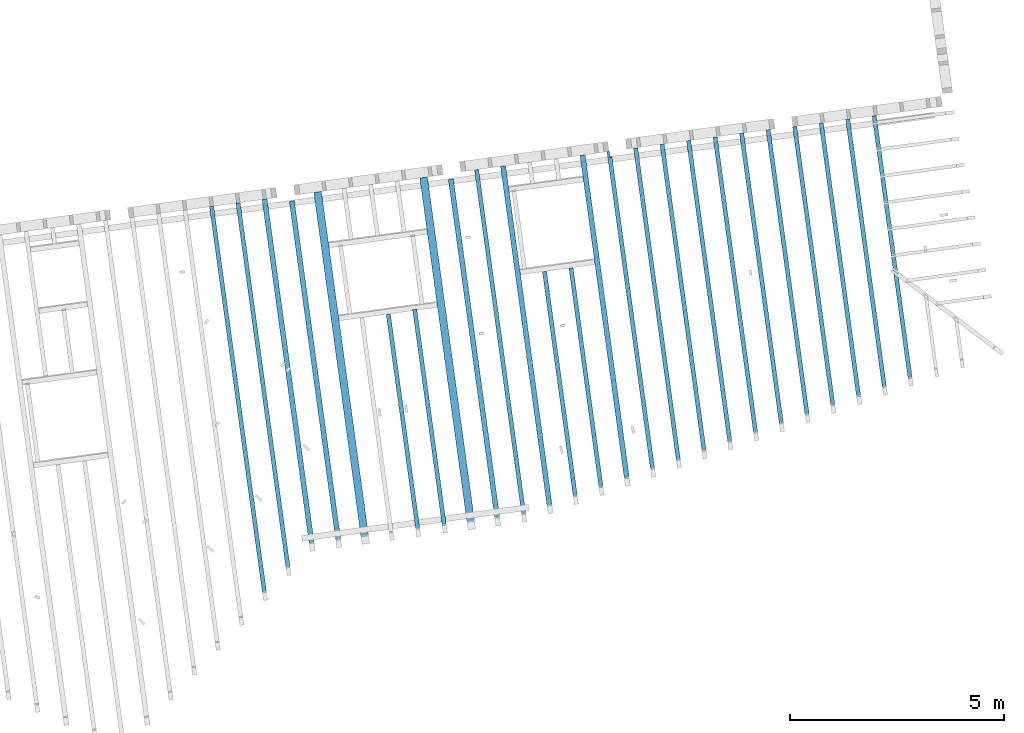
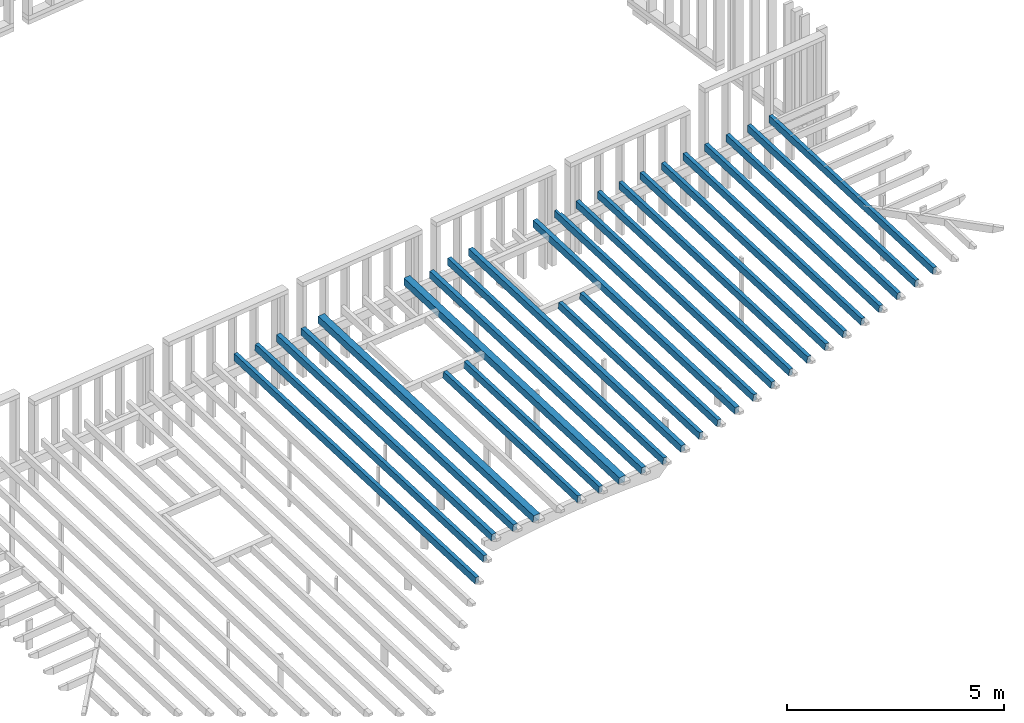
# One storey, part 8 of 16: 25 building element parts, 25 elements without a shape of their own.
"""IFC2X3 building model written with IfcOpenShell, lengths in metres."""

from ifc_helpers import new_model, entity, si_unit, converted_unit, derived_unit, money_unit, direction, frame, origin_with_axes, place, context, subcontext, project, spatial, faceted_brep, material, type_object, element, aggregate, save


model = new_model("IFC2X3")

# Units and contexts
model_context = context("Model", 3, precision=1e-05, world=origin_with_axes(), true_north=direction((0.0, 1.0)))
body_context = subcontext(model_context, "Body", "Model", "MODEL_VIEW")
ifc_project = project(units=[si_unit("LENGTHUNIT", "METRE"), si_unit("AREAUNIT", "SQUARE_METRE"), si_unit("VOLUMEUNIT", "CUBIC_METRE"), converted_unit("PLANEANGLEUNIT", "DEGREE", entity("IfcPlaneAngleMeasure", 0.0174532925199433), si_unit("PLANEANGLEUNIT", "RADIAN"), dimensions=[0, 0, 0, 0, 0, 0, 0]), money_unit("EUR"), converted_unit("TIMEUNIT", "Year", entity("IfcTimeMeasure", 31557600.0), si_unit("TIMEUNIT", "SECOND"), dimensions=[0, 0, 1, 0, 0, 0, 0]), si_unit("MASSUNIT", "GRAM", prefix="KILO"), si_unit("THERMODYNAMICTEMPERATUREUNIT", "DEGREE_CELSIUS"), si_unit("LUMINOUSINTENSITYUNIT", "LUMEN"), si_unit("ENERGYUNIT", "JOULE", prefix="MEGA"), derived_unit("THERMALCONDUCTANCEUNIT", [(si_unit("POWERUNIT", "WATT"), 1), (si_unit("LENGTHUNIT", "METRE"), -1), (si_unit("THERMODYNAMICTEMPERATUREUNIT", "KELVIN"), -1)]), derived_unit("SPECIFICHEATCAPACITYUNIT", [(si_unit("ENERGYUNIT", "JOULE"), 1), (si_unit("MASSUNIT", "GRAM", prefix="KILO"), -1), (si_unit("THERMODYNAMICTEMPERATUREUNIT", "KELVIN"), -1)]), derived_unit("MASSDENSITYUNIT", [(si_unit("MASSUNIT", "GRAM", prefix="KILO"), 1), (si_unit("VOLUMEUNIT", "CUBIC_METRE"), -1)])], contexts=[model_context])

# Site, building, storey
site_placement = place(None, origin_with_axes())
site = spatial("IfcSite", under=ifc_project, at=site_placement, Name="Gelände", CompositionType="ELEMENT")
building_placement = place(site_placement, origin_with_axes())
building = spatial("IfcBuilding", under=site, at=building_placement, Name="Gebäude", CompositionType="ELEMENT")
storey_placement = place(building_placement, frame((0.0, 0.0, 3.0), z_axis=(0.0, 0.0, 1.0), x_axis=(1.0, 0.0, 0.0)))
storey = spatial("IfcBuildingStorey", under=building, at=storey_placement, Name="ZG", CompositionType="ELEMENT", Elevation=3.0)

# Beam, building element part
beam_type_1 = type_object("IfcBeamType", Name="Verschiedene Strukturen - 2 Segmente - 100 x 200 x 9376 (183+9193)", PredefinedType="NOTDEFINED")
beam_1_placement = place(storey_placement, frame((97.74728750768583, -158.9940395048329, 0.5185833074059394), z_axis=(0.0, 0.0, 1.0), x_axis=(0.9907484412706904, 0.1357111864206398, 0.0)))
beam_1 = element("IfcBeam", 1, at=beam_1_placement, inside=storey, type_object=beam_type_1, Name="Unterzug-034")
ifc_material = material(Name="Holz, Bauholz-hart")
building_element_part_1_placement = place(beam_1_placement, origin_with_axes())
building_element_part_1 = element("IfcBuildingElementPart", 2, at=building_element_part_1_placement, material=ifc_material, Name="Holz, Bauholz-hart", context=body_context, shape_type="Brep", body=[
    faceted_brep([(-0.04999999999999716, 0.2085613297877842, -0.1726541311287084), (-0.04999999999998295, 9.284549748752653, 1.102892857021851), (0.05000000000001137, 9.284549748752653, 1.102892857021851), (0.05000000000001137, 0.2085613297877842, -0.1726541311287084), (-0.04999999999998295, 0.1807267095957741, 0.02539948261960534), (-0.04999999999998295, 9.284549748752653, 1.304858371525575), (0.05000000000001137, 9.284549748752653, 1.304858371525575), (0.04999999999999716, 0.1807267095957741, 0.02539948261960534)], [[[0, 1, 2, 3]], [[4, 5, 1, 0]], [[2, 1, 5, 6]], [[3, 2, 6, 7]], [[4, 0, 3, 7]], [[7, 6, 5, 4]]]),
])
aggregate(beam_1, [building_element_part_1])

beam_type_2 = type_object("IfcBeamType", Name="Verschiedene Strukturen - 2 Segmente - 100 x 200 x 6565 (183+6383)", PredefinedType="NOTDEFINED")
beam_2_placement = place(storey_placement, frame((112.2308280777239, -154.2011051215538, 0.9097103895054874), z_axis=(0.0, 0.0, 1.0), x_axis=(0.9907484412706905, 0.1357111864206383, 0.0)))
beam_2 = element("IfcBeam", 3, at=beam_2_placement, inside=storey, type_object=beam_type_2, Name="Unterzug-034")
building_element_part_2_placement = place(beam_2_placement, origin_with_axes())
building_element_part_2 = element("IfcBuildingElementPart", 4, at=building_element_part_2_placement, material=ifc_material, Name="Holz, Bauholz-hart", context=body_context, shape_type="Brep", body=[
    faceted_brep([(-0.04999999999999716, 0.208561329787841, -0.1726541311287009), (-0.05000000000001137, 6.50153589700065, 0.7117657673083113), (0.04999999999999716, 6.50153589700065, 0.7117657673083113), (0.04999999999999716, 0.208561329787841, -0.1726541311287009), (-0.04999999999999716, 0.1807267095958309, 0.02539948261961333), (-0.05000000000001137, 6.50153589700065, 0.9137312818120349), (0.04999999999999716, 6.50153589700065, 0.9137312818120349), (0.04999999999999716, 0.1807267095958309, 0.02539948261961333)], [[[0, 1, 2, 3]], [[4, 5, 1, 0]], [[2, 1, 5, 6]], [[3, 2, 6, 7]], [[4, 0, 3, 7]], [[7, 6, 5, 4]]]),
])
aggregate(beam_2, [building_element_part_2])

beam_type_3 = type_object("IfcBeamType", Name="Verschiedene Strukturen - 2 Segmente - 100 x 200 x 6696 (183+6513)", PredefinedType="NOTDEFINED")
beam_3_placement = place(storey_placement, frame((111.6291060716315, -154.4136510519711, 0.8915919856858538), z_axis=(0.0, 0.0, 1.0), x_axis=(0.9907484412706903, 0.1357111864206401, 0.0)))
beam_3 = element("IfcBeam", 5, at=beam_3_placement, inside=storey, type_object=beam_type_3, Name="Unterzug-034")
building_element_part_3_placement = place(beam_3_placement, origin_with_axes())
building_element_part_3 = element("IfcBuildingElementPart", 6, at=building_element_part_3_placement, material=ifc_material, Name="Holz, Bauholz-hart", context=body_context, shape_type="Brep", body=[
    faceted_brep([(-0.04999999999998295, 0.2085613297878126, -0.1726541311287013), (-0.04999999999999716, 6.63045503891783, 0.7298841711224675), (0.04999999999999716, 6.63045503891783, 0.7298841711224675), (0.04999999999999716, 0.208561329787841, -0.1726541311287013), (-0.05000000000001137, 0.1807267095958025, 0.02539948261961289), (-0.04999999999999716, 6.63045503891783, 0.9318496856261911), (0.04999999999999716, 6.63045503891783, 0.9318496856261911), (0.05000000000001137, 0.1807267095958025, 0.02539948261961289)], [[[0, 1, 2, 3]], [[4, 5, 1, 0]], [[2, 1, 5, 6]], [[3, 2, 6, 7]], [[4, 0, 3, 7]], [[7, 6, 5, 4]]]),
])
aggregate(beam_3, [building_element_part_3])

beam_type_4 = type_object("IfcBeamType", Name="Verschiedene Strukturen - 2 Segmente - 100 x 200 x 6826 (183+6643)", PredefinedType="NOTDEFINED")
beam_4_placement = place(storey_placement, frame((111.0273840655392, -154.6261969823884, 0.8734735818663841), z_axis=(0.0, 0.0, 1.0), x_axis=(0.9907484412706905, 0.1357111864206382, 0.0)))
beam_4 = element("IfcBeam", 7, at=beam_4_placement, inside=storey, type_object=beam_type_4, Name="Unterzug-034")
building_element_part_4_placement = place(beam_4_placement, origin_with_axes())
building_element_part_4 = element("IfcBuildingElementPart", 8, at=building_element_part_4_placement, material=ifc_material, Name="Holz, Bauholz-hart", context=body_context, shape_type="Brep", body=[
    faceted_brep([(-0.04999999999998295, 0.2085613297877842, -0.1726541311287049), (-0.04999999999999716, 6.759374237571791, 0.7480025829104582), (0.04999999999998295, 6.759374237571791, 0.7480025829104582), (0.05000000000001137, 0.2085613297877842, -0.1726541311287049), (-0.05000000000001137, 0.1807267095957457, 0.02539948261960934), (-0.04999999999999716, 6.759374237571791, 0.9499680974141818), (0.04999999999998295, 6.759374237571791, 0.9499680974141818), (0.05000000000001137, 0.1807267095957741, 0.02539948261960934)], [[[0, 1, 2, 3]], [[4, 5, 1, 0]], [[2, 1, 5, 6]], [[3, 2, 6, 7]], [[4, 0, 3, 7]], [[7, 6, 5, 4]]]),
])
aggregate(beam_4, [building_element_part_4])

beam_type_5 = type_object("IfcBeamType", Name="Verschiedene Strukturen - 2 Segmente - 100 x 200 x 6435 (183+6253)", PredefinedType="NOTDEFINED")
beam_5_placement = place(storey_placement, frame((112.8325500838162, -153.9885591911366, 0.9278287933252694), z_axis=(0.0, 0.0, 1.0), x_axis=(0.9907484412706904, 0.1357111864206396, 0.0)))
beam_5 = element("IfcBeam", 9, at=beam_5_placement, inside=storey, type_object=beam_type_5, Name="Unterzug-034")
building_element_part_5_placement = place(beam_5_placement, origin_with_axes())
building_element_part_5 = element("IfcBuildingElementPart", 10, at=building_element_part_5_placement, material=ifc_material, Name="Holz, Bauholz-hart", context=body_context, shape_type="Brep", body=[
    faceted_brep([(-0.04999999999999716, 0.2085613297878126, -0.1726541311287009), (-0.04999999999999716, 6.372616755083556, 0.6936473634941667), (0.04999999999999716, 6.372616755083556, 0.6936473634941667), (0.04999999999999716, 0.2085613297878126, -0.1726541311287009), (-0.04999999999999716, 0.1807267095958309, 0.02539948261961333), (-0.04999999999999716, 6.372616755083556, 0.8956128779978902), (0.04999999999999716, 6.372616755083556, 0.8956128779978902), (0.04999999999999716, 0.1807267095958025, 0.02539948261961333)], [[[0, 1, 2, 3]], [[4, 5, 1, 0]], [[2, 1, 5, 6]], [[3, 2, 6, 7]], [[4, 0, 3, 7]], [[7, 6, 5, 4]]]),
])
aggregate(beam_5, [building_element_part_5])

beam_type_6 = type_object("IfcBeamType", Name="Verschiedene Strukturen - 2 Segmente - 100 x 200 x 6969 (183+6786)", PredefinedType="NOTDEFINED")
beam_6_placement = place(storey_placement, frame((110.4256620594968, -154.83874291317, 0.8553551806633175), z_axis=(0.0, 0.0, 1.0), x_axis=(0.9907484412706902, 0.1357111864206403, 0.0)))
beam_6 = element("IfcBeam", 11, at=beam_6_placement, inside=storey, type_object=beam_type_6, Name="Unterzug-034")
building_element_part_6_placement = place(beam_6_placement, origin_with_axes())
building_element_part_6 = element("IfcBuildingElementPart", 12, at=building_element_part_6_placement, material=ifc_material, Name="Holz, Bauholz-hart", context=body_context, shape_type="Brep", body=[
    faceted_brep([(-0.04999999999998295, 0.2085613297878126, -0.1726541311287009), (-0.04999999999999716, 6.900793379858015, 0.7678777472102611), (0.04999999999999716, 6.900793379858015, 0.7678777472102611), (0.04999999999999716, 0.2085613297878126, -0.1726541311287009), (-0.04999999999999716, 0.1807267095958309, 0.02539948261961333), (-0.04999999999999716, 6.900793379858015, 0.9698432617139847), (0.04999999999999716, 6.900793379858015, 0.9698432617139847), (0.05000000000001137, 0.1807267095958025, 0.02539948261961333)], [[[0, 1, 2, 3]], [[4, 5, 1, 0]], [[2, 1, 5, 6]], [[3, 2, 6, 7]], [[4, 0, 3, 7]], [[7, 6, 5, 4]]]),
])
aggregate(beam_6, [building_element_part_6])

beam_type_7 = type_object("IfcBeamType", Name="Verschiedene Strukturen - 2 Segmente - 100 x 200 x 7099 (183+6916)", PredefinedType="NOTDEFINED")
beam_7_placement = place(storey_placement, frame((109.8239400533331, -155.0512888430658, 0.8372367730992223), z_axis=(0.0, 0.0, 1.0), x_axis=(0.99074844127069, 0.135711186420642, 0.0)))
beam_7 = element("IfcBeam", 13, at=beam_7_placement, inside=storey, type_object=beam_type_7, Name="Unterzug-034")
building_element_part_7_placement = place(beam_7_placement, origin_with_axes())
building_element_part_7 = element("IfcBuildingElementPart", 14, at=building_element_part_7_placement, material=ifc_material, Name="Holz, Bauholz-hart", context=body_context, shape_type="Brep", body=[
    faceted_brep([(-0.04999999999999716, 0.208561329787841, -0.1726541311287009), (-0.05000000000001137, 7.029712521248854, 0.7859961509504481), (0.04999999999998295, 7.029712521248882, 0.7859961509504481), (0.04999999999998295, 0.208561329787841, -0.1726541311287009), (-0.05000000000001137, 0.1807267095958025, 0.02539948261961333), (-0.05000000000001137, 7.029712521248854, 0.9879616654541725), (0.04999999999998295, 7.029712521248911, 0.9879616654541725), (0.04999999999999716, 0.1807267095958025, 0.02539948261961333)], [[[0, 1, 2, 3]], [[4, 5, 1, 0]], [[2, 1, 5, 6]], [[3, 2, 6, 7]], [[4, 0, 3, 7]], [[7, 6, 5, 4]]]),
])
aggregate(beam_7, [building_element_part_7])

beam_type_8 = type_object("IfcBeamType", Name="Verschiedene Strukturen - 2 Segmente - 100 x 200 x 7229 (183+7046)", PredefinedType="NOTDEFINED")
beam_8_placement = place(storey_placement, frame((109.2222180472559, -155.2638347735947, 0.8191183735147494), z_axis=(0.0, 0.0, 1.0), x_axis=(0.9907484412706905, 0.1357111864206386, 0.0)))
beam_8 = element("IfcBeam", 15, at=beam_8_placement, inside=storey, type_object=beam_type_8, Name="Unterzug-034")
building_element_part_8_placement = place(beam_8_placement, origin_with_axes())
building_element_part_8 = element("IfcBuildingElementPart", 16, at=building_element_part_8_placement, material=ifc_material, Name="Holz, Bauholz-hart", context=body_context, shape_type="Brep", body=[
    faceted_brep([(-0.05000000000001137, 0.2085613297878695, -0.1726541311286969), (-0.04999999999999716, 7.158631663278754, 0.8041145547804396), (0.05000000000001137, 7.158631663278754, 0.8041145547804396), (0.04999999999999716, 0.208561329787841, -0.1726541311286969), (-0.04999999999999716, 0.1807267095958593, 0.02539948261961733), (-0.04999999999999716, 7.158631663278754, 1.006080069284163), (0.05000000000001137, 7.158631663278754, 1.006080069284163), (0.05000000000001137, 0.1807267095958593, 0.02539948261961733)], [[[0, 1, 2, 3]], [[4, 5, 1, 0]], [[2, 1, 5, 6]], [[3, 2, 6, 7]], [[4, 0, 3, 7]], [[7, 6, 5, 4]]]),
])
aggregate(beam_8, [building_element_part_8])

beam_type_9 = type_object("IfcBeamType", Name="Verschiedene Strukturen - 2 Segmente - 100 x 200 x 7359 (183+7177)", PredefinedType="NOTDEFINED")
beam_9_placement = place(storey_placement, frame((108.6204960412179, -155.4763807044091, 0.8009999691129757), z_axis=(0.0, 0.0, 1.0), x_axis=(0.9907484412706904, 0.1357111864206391, 0.0)))
beam_9 = element("IfcBeam", 17, at=beam_9_placement, inside=storey, type_object=beam_type_9, Name="Unterzug-034")
building_element_part_9_placement = place(beam_9_placement, origin_with_axes())
building_element_part_9 = element("IfcBuildingElementPart", 18, at=building_element_part_9_placement, material=ifc_material, Name="Holz, Bauholz-hart", context=body_context, shape_type="Brep", body=[
    faceted_brep([(-0.04999999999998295, 0.2085613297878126, -0.1726541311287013), (-0.04999999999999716, 7.287550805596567, 0.822232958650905), (0.04999999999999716, 7.287550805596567, 0.822232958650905), (0.04999999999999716, 0.2085613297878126, -0.1726541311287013), (-0.04999999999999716, 0.1807267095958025, 0.02539948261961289), (-0.04999999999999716, 7.287550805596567, 1.024198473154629), (0.04999999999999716, 7.287550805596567, 1.024198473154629), (0.05000000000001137, 0.1807267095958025, 0.02539948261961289)], [[[0, 1, 2, 3]], [[4, 5, 1, 0]], [[2, 1, 5, 6]], [[3, 2, 6, 7]], [[4, 0, 3, 7]], [[7, 6, 5, 4]]]),
])
aggregate(beam_9, [building_element_part_9])

beam_type_10 = type_object("IfcBeamType", Name="Verschiedene Strukturen - 2 Segmente - 100 x 200 x 7489 (183+7307)", PredefinedType="NOTDEFINED")
beam_10_placement = place(storey_placement, frame((108.0187740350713, -155.6889266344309, 0.782881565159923), z_axis=(0.0, 0.0, 1.0), x_axis=(0.9907484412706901, 0.1357111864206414, 0.0)))
beam_10 = element("IfcBeam", 19, at=beam_10_placement, inside=storey, type_object=beam_type_10, Name="Unterzug-034")
building_element_part_10_placement = place(beam_10_placement, origin_with_axes())
building_element_part_10 = element("IfcBuildingElementPart", 20, at=building_element_part_10_placement, material=ifc_material, Name="Holz, Bauholz-hart", context=body_context, shape_type="Brep", body=[
    faceted_brep([(-0.05000000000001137, 0.2085613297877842, -0.1726541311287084), (-0.04999999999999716, 7.416469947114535, 0.8403513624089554), (0.04999999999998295, 7.416469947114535, 0.8403513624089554), (0.04999999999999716, 0.2085613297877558, -0.1726541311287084), (-0.05000000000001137, 0.1807267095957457, 0.02539948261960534), (-0.04999999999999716, 7.416469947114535, 1.04231687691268), (0.04999999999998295, 7.416469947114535, 1.04231687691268), (0.04999999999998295, 0.1807267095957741, 0.02539948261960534)], [[[0, 1, 2, 3]], [[4, 5, 1, 0]], [[2, 1, 5, 6]], [[3, 2, 6, 7]], [[4, 0, 3, 7]], [[7, 6, 5, 4]]]),
])
aggregate(beam_10, [building_element_part_10])

beam_type_11 = type_object("IfcBeamType", Name="Verschiedene Strukturen - 2 Segmente - 100 x 200 x 7620 (183+7437)", PredefinedType="NOTDEFINED")
beam_11_placement = place(storey_placement, frame((107.4170520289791, -155.9014725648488, 0.7647631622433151), z_axis=(0.0, 0.0, 1.0), x_axis=(0.9907484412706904, 0.1357111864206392, 0.0)))
beam_11 = element("IfcBeam", 21, at=beam_11_placement, inside=storey, type_object=beam_type_11, Name="Unterzug-034")
building_element_part_11_placement = place(beam_11_placement, origin_with_axes())
building_element_part_11 = element("IfcBuildingElementPart", 22, at=building_element_part_11_placement, material=ifc_material, Name="Holz, Bauholz-hart", context=body_context, shape_type="Brep", body=[
    faceted_brep([(-0.04999999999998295, 0.2085613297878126, -0.1726541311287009), (-0.04999999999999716, 7.545389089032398, 0.8584697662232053), (0.05000000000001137, 7.545389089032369, 0.8584697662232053), (0.05000000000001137, 0.2085613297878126, -0.1726541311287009), (-0.04999999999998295, 0.1807267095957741, 0.02539948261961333), (-0.04999999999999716, 7.545389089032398, 1.060435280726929), (0.05000000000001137, 7.545389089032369, 1.060435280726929), (0.05000000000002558, 0.1807267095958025, 0.02539948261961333)], [[[0, 1, 2, 3]], [[4, 5, 1, 0]], [[2, 1, 5, 6]], [[3, 2, 6, 7]], [[4, 0, 3, 7]], [[7, 6, 5, 4]]]),
])
aggregate(beam_11, [building_element_part_11])

beam_type_12 = type_object("IfcBeamType", Name="Verschiedene Strukturen - 2 Segmente - 120 x 200 x 7880 (183+7697)", PredefinedType="NOTDEFINED")
beam_12_placement = place(storey_placement, frame((106.2136080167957, -156.3265644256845, 0.7285258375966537), z_axis=(0.0, 0.0, 1.0), x_axis=(0.9907484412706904, 0.1357111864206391, 0.0)))
beam_12 = element("IfcBeam", 23, at=beam_12_placement, inside=storey, type_object=beam_type_12, Name="Unterzug-034")
building_element_part_12_placement = place(beam_12_placement, origin_with_axes())
building_element_part_12 = element("IfcBuildingElementPart", 24, at=building_element_part_12_placement, material=ifc_material, Name="Holz, Bauholz-hart", context=body_context, shape_type="Brep", body=[
    faceted_brep([(-0.05999999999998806, 0.2085613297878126, -0.1726541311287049), (-0.05999999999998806, 7.803227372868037, 0.8947065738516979), (0.05999999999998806, 7.803227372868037, 0.8947065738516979), (0.05999999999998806, 0.2085613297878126, -0.1726541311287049), (-0.06000000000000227, 0.1807267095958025, 0.02539948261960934), (-0.05999999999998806, 7.803227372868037, 1.096672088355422), (0.05999999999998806, 7.803227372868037, 1.096672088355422), (0.06000000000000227, 0.1807267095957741, 0.02539948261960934)], [[[0, 1, 2, 3]], [[4, 5, 1, 0]], [[2, 1, 5, 6]], [[3, 2, 6, 7]], [[4, 0, 3, 7]], [[7, 6, 5, 4]]]),
])
aggregate(beam_12, [building_element_part_12])

beam_type_13 = type_object("IfcBeamType", Name="Verschiedene Strukturen - 2 Segmente - 100 x 200 x 5542 (183+5359)", PredefinedType="NOTDEFINED")
beam_13_placement = place(storey_placement, frame((105.0101640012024, -156.7516562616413, 0.6922893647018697), z_axis=(0.0, 0.0, 1.0), x_axis=(0.9907484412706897, 0.1357111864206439, 0.0)))
beam_13 = element("IfcBeam", 25, at=beam_13_placement, inside=storey, type_object=beam_type_13, Name="Unterzug-034")
building_element_part_13_placement = place(beam_13_placement, origin_with_axes())
building_element_part_13 = element("IfcBuildingElementPart", 26, at=building_element_part_13_placement, material=ifc_material, Name="Holz, Bauholz-hart", context=body_context, shape_type="Brep", body=[
    faceted_brep([(0.05000000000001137, 0.2085613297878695, -0.1726541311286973), (-0.04999999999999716, 0.2085613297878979, -0.1726541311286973), (-0.04999999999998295, 5.515609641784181, 0.5732028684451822), (0.05000000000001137, 5.515609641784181, 0.5732028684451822), (0.05000000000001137, 0.1807267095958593, 0.02539948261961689), (-0.04999999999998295, 0.1807267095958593, 0.02539948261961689), (-0.04999999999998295, 5.487774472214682, 0.7712564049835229), (0.05000000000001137, 5.487774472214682, 0.7712564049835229)], [[[0, 1, 2, 3]], [[4, 5, 1, 0]], [[1, 5, 6, 2]], [[7, 3, 2, 6]], [[4, 0, 3, 7]], [[5, 4, 7, 6]]]),
])
aggregate(beam_13, [building_element_part_13])

beam_type_14 = type_object("IfcBeamType", Name="Verschiedene Strukturen - 2 Segmente - 120 x 200 x 8379 (183+8197)", PredefinedType="NOTDEFINED")
beam_14_placement = place(storey_placement, frame((98.85178619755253, -157.8466050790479, 0.6572867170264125), z_axis=(0.0, 0.0, 1.0), x_axis=(0.9907484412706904, 0.1357111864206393, 0.0)))
beam_14 = element("IfcBeam", 27, at=beam_14_placement, inside=storey, type_object=beam_type_14, Name="Unterzug-034")
building_element_part_14_placement = place(beam_14_placement, origin_with_axes())
building_element_part_14 = element("IfcBuildingElementPart", 28, at=building_element_part_14_placement, material=ifc_material, Name="Holz, Bauholz-hart", context=body_context, shape_type="Brep", body=[
    faceted_brep([(-0.05999999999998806, 0.2085613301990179, -0.1726541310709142), (-0.06000000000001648, 8.297623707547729, 0.9641894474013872), (0.06000000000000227, 8.297623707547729, 0.9641894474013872), (0.05999999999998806, 0.2085613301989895, -0.1726541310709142), (-0.06000000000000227, 0.1807267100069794, 0.0253994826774), (-0.06000000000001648, 8.297623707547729, 1.166154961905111), (0.06000000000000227, 8.297623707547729, 1.166154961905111), (0.05999999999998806, 0.180726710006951, 0.0253994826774)], [[[0, 1, 2, 3]], [[4, 5, 1, 0]], [[2, 1, 5, 6]], [[3, 2, 6, 7]], [[4, 0, 3, 7]], [[7, 6, 5, 4]]]),
])
aggregate(beam_14, [building_element_part_14])

beam_type_15 = type_object("IfcBeamType", Name="Verschiedene Strukturen - 2 Segmente - 100 x 200 x 7750 (183+7567)", PredefinedType="NOTDEFINED")
beam_15_placement = place(storey_placement, frame((106.815330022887, -156.1140184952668, 0.7466447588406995), z_axis=(0.0, 0.0, 1.0), x_axis=(0.9907484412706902, 0.1357111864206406, 0.0)))
beam_15 = element("IfcBeam", 29, at=beam_15_placement, inside=storey, type_object=beam_type_15, Name="Unterzug-034")
building_element_part_15_placement = place(beam_15_placement, origin_with_axes())
building_element_part_15 = element("IfcBuildingElementPart", 30, at=building_element_part_15_placement, material=ifc_material, Name="Holz, Bauholz-hart", context=body_context, shape_type="Brep", body=[
    faceted_brep([(0.05000000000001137, 7.556308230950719, 0.8600041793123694), (0.04999999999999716, 7.536308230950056, 0.8600041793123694), (0.04999999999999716, 7.536308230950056, 1.059159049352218), (0.04999999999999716, 0.1807267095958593, 0.02539948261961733), (0.05000000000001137, 0.2085613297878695, -0.1726541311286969), (0.008322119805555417, 7.556308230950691, 0.8600041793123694), (0.008322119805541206, 7.536308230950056, 0.8600041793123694), (0.008322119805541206, 7.536308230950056, 1.05915904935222), (0.008322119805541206, 7.674308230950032, 1.078553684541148), (-0.04999999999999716, 7.674308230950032, 1.078553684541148), (-0.04999999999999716, 0.1807267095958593, 0.02539948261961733), (-0.04999999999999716, 0.2085613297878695, -0.1726541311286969), (-0.04999999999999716, 7.674308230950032, 0.876588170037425), (0.008322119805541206, 7.674308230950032, 0.876588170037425)], [[[0, 1, 2, 3, 4]], [[1, 0, 5, 6]], [[7, 2, 1, 6]], [[7, 8, 9, 10, 3, 2]], [[3, 10, 11, 4]], [[5, 0, 4, 11, 12, 13]], [[8, 7, 6, 5, 13]], [[8, 13, 12, 9]], [[11, 10, 9, 12]]]),
])
aggregate(beam_15, [building_element_part_15])

beam_type_16 = type_object("IfcBeamType", Name="Verschiedene Strukturen - 2 Segmente - 100 x 200 x 5298 (183+5116)", PredefinedType="NOTDEFINED")
beam_16_placement = place(storey_placement, frame((101.3286579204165, -157.5073315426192, 0.6572859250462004), z_axis=(0.0, 0.0, 1.0), x_axis=(0.9907484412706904, 0.1357111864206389, 0.0)))
beam_16 = element("IfcBeam", 31, at=beam_16_placement, inside=storey, type_object=beam_type_16, Name="Unterzug-034")
building_element_part_16_placement = place(beam_16_placement, origin_with_axes())
building_element_part_16 = element("IfcBuildingElementPart", 32, at=building_element_part_16_placement, material=ifc_material, Name="Holz, Bauholz-hart", context=body_context, shape_type="Brep", body=[
    faceted_brep([(-0.04999999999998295, 0.2085658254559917, -0.1726534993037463), (-0.05000000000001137, 5.274560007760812, 0.5393255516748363), (0.05000000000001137, 5.274560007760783, 0.5393255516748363), (0.04999999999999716, 0.2085658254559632, -0.1726534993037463), (-0.04999999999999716, 0.1807312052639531, 0.02540011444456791), (-0.05000000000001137, 5.246724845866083, 0.737379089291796), (0.05000000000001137, 5.246724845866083, 0.737379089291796), (0.05000000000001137, 0.1807312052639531, 0.02540011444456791)], [[[0, 1, 2, 3]], [[4, 5, 1, 0]], [[2, 1, 5, 6]], [[3, 2, 6, 7]], [[4, 0, 3, 7]], [[7, 6, 5, 4]]]),
])
aggregate(beam_16, [building_element_part_16])

beam_type_17 = type_object("IfcBeamType", Name="Verschiedene Strukturen - 2 Segmente - 100 x 200 x 5325 (183+5143)", PredefinedType="NOTDEFINED")
beam_17_placement = place(storey_placement, frame((101.947875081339, -157.4225075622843, 0.6572859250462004), z_axis=(0.0, 0.0, 1.0), x_axis=(0.9907484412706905, 0.1357111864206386, 0.0)))
beam_17 = element("IfcBeam", 33, at=beam_17_placement, inside=storey, type_object=beam_type_17, Name="Unterzug-034")
building_element_part_17_placement = place(beam_17_placement, origin_with_axes())
building_element_part_17 = element("IfcBuildingElementPart", 34, at=building_element_part_17_placement, material=ifc_material, Name="Holz, Bauholz-hart", context=body_context, shape_type="Brep", body=[
    faceted_brep([(-0.04999999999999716, 0.208561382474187, -0.1726541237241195), (-0.04999999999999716, 5.301294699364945, 0.5430828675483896), (0.04999999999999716, 5.301294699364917, 0.5430828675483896), (0.04999999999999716, 0.2085613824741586, -0.1726541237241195), (-0.05000000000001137, 0.1807267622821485, 0.02539949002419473), (-0.04999999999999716, 5.273459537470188, 0.7411364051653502), (0.05000000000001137, 5.273459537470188, 0.7411364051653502), (0.04999999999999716, 0.1807267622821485, 0.02539949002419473)], [[[0, 1, 2, 3]], [[4, 5, 1, 0]], [[2, 1, 5, 6]], [[3, 2, 6, 7]], [[4, 0, 3, 7]], [[7, 6, 5, 4]]]),
])
aggregate(beam_17, [building_element_part_17])

beam_type_18 = type_object("IfcBeamType", Name="Verschiedene Strukturen - 2 Segmente - 100 x 200 x 5412 (183+5229)", PredefinedType="NOTDEFINED")
beam_18_placement = place(storey_placement, frame((105.6118860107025, -156.5391103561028, 0.7104075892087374), z_axis=(0.0, 0.0, 1.0), x_axis=(0.9907484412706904, 0.1357111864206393, 0.0)))
beam_18 = element("IfcBeam", 35, at=beam_18_placement, inside=storey, type_object=beam_type_18, Name="Unterzug-034")
building_element_part_18_placement = place(beam_18_placement, origin_with_axes())
building_element_part_18 = element("IfcBuildingElementPart", 36, at=building_element_part_18_placement, material=ifc_material, Name="Holz, Bauholz-hart", context=body_context, shape_type="Brep", body=[
    faceted_brep([(-0.04999999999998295, 0.2085613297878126, -0.1726541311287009), (-0.04999999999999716, 5.386688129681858, 0.5550841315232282), (0.04999999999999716, 5.386688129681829, 0.5550841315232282), (0.04999999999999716, 0.208561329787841, -0.1726541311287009), (-0.05000000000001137, 0.1807267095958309, 0.02539948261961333), (-0.04999999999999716, 5.35885296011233, 0.7531376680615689), (0.04999999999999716, 5.35885296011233, 0.7531376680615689), (0.05000000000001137, 0.1807267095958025, 0.02539948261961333)], [[[0, 1, 2, 3]], [[4, 5, 1, 0]], [[2, 1, 5, 6]], [[3, 2, 6, 7]], [[4, 0, 3, 7]], [[7, 6, 5, 4]]]),
])
aggregate(beam_18, [building_element_part_18])

beam_type_19 = type_object("IfcBeamType", Name="Verschiedene Strukturen - 2 Segmente - 100 x 200 x 8869 (183+8686)", PredefinedType="NOTDEFINED")
beam_19_placement = place(storey_placement, frame((98.29837467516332, -158.411837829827, 0.5891385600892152), z_axis=(0.0, 0.0, 1.0), x_axis=(0.9907484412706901, 0.1357111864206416, 0.0)))
beam_19 = element("IfcBeam", 37, at=beam_19_placement, inside=storey, type_object=beam_type_19, Name="Unterzug-034")
building_element_part_19_placement = place(beam_19_placement, origin_with_axes())
building_element_part_19 = element("IfcBuildingElementPart", 38, at=building_element_part_19_placement, material=ifc_material, Name="Holz, Bauholz-hart", context=body_context, shape_type="Brep", body=[
    faceted_brep([(-0.04999999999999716, 0.2085613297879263, -0.1726541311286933), (-0.04999999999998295, 8.81035766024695, 1.036249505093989), (0.05000000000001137, 8.810357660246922, 1.036249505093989), (0.05000000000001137, 0.2085613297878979, -0.1726541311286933), (-0.04999999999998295, 0.1807267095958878, 0.02539948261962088), (-0.04999999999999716, 8.78252304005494, 1.234303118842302), (0.05000000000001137, 8.78252304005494, 1.234303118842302), (0.04999999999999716, 0.1807267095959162, 0.02539948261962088)], [[[0, 1, 2, 3]], [[4, 5, 1, 0]], [[2, 1, 5, 6]], [[3, 2, 6, 7]], [[4, 0, 3, 7]], [[7, 6, 5, 4]]]),
])
aggregate(beam_19, [building_element_part_19])

beam_type_20 = type_object("IfcBeamType", Name="Verschiedene Strukturen - 2 Segmente - 100 x 200 x 8392 (183+8209)", PredefinedType="NOTDEFINED")
beam_20_placement = place(storey_placement, frame((103.8055289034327, -157.1680526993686, 0.6572862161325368), z_axis=(0.0, 0.0, 1.0), x_axis=(0.9907484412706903, 0.1357111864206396, 0.0)))
beam_20 = element("IfcBeam", 39, at=beam_20_placement, inside=storey, type_object=beam_type_20, Name="Unterzug-034")
building_element_part_20_placement = place(beam_20_placement, origin_with_axes())
building_element_part_20 = element("IfcBuildingElementPart", 40, at=building_element_part_20_placement, material=ifc_material, Name="Holz, Bauholz-hart", context=body_context, shape_type="Brep", body=[
    faceted_brep([(-0.05000000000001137, 0.2085649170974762, -0.1726536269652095), (-0.05000000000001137, 8.31012729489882, 0.9659467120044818), (0.04999999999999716, 8.31012729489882, 0.9659467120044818), (0.04999999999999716, 0.2085649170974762, -0.1726536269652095), (-0.05000000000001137, 0.180730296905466, 0.02539998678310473), (-0.05000000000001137, 8.31012729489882, 1.167912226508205), (0.04999999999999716, 8.31012729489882, 1.167912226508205), (0.04999999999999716, 0.1807302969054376, 0.02539998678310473)], [[[0, 1, 2, 3]], [[4, 5, 1, 0]], [[2, 1, 5, 6]], [[3, 2, 6, 7]], [[4, 0, 3, 7]], [[7, 6, 5, 4]]]),
])
aggregate(beam_20, [building_element_part_20])

beam_type_21 = type_object("IfcBeamType", Name="Verschiedene Strukturen - 2 Segmente - 120 x 200 x 8252 (183+8070)", PredefinedType="NOTDEFINED")
beam_21_placement = place(storey_placement, frame((103.1863105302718, -157.2528678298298, 0.6572859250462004), z_axis=(0.0, 0.0, 1.0), x_axis=(0.9907484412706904, 0.1357111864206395, 0.0)))
beam_21 = element("IfcBeam", 41, at=beam_21_placement, inside=storey, type_object=beam_type_21, Name="Unterzug-034")
building_element_part_21_placement = place(beam_21_placement, origin_with_axes())
building_element_part_21 = element("IfcBuildingElementPart", 42, at=building_element_part_21_placement, material=ifc_material, Name="Holz, Bauholz-hart", context=body_context, shape_type="Brep", body=[
    faceted_brep([(-0.05999999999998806, 0.2085606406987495, -0.1726542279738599), (-0.06000000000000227, 8.172122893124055, 0.9465514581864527), (0.05999999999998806, 8.172122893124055, 0.9465514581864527), (0.05999999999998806, 0.208560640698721, -0.1726542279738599), (-0.06000000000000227, 0.1807260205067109, 0.02539938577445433), (-0.06000000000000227, 8.172122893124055, 1.148516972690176), (0.05999999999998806, 8.172122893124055, 1.148516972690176), (0.06000000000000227, 0.1807260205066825, 0.02539938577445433)], [[[0, 1, 2, 3]], [[4, 5, 1, 0]], [[2, 1, 5, 6]], [[3, 2, 6, 7]], [[4, 0, 3, 7]], [[7, 6, 5, 4]]]),
])
aggregate(beam_21, [building_element_part_21])

beam_type_22 = type_object("IfcBeamType", Name="Verschiedene Strukturen - 2 Segmente - 180 x 200 x 8379 (183+8197)", PredefinedType="NOTDEFINED")
beam_22_placement = place(storey_placement, frame((102.5670934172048, -157.3376921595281, 0.6572859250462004), z_axis=(0.0, 0.0, 1.0), x_axis=(0.9907484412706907, 0.1357111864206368, 0.0)))
beam_22 = element("IfcBeam", 43, at=beam_22_placement, inside=storey, type_object=beam_type_22, Name="Unterzug-034")
building_element_part_22_placement = place(beam_22_placement, origin_with_axes())
building_element_part_22 = element("IfcBuildingElementPart", 44, at=building_element_part_22_placement, material=ifc_material, Name="Holz, Bauholz-hart", context=body_context, shape_type="Brep", body=[
    faceted_brep([(-0.09000000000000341, 0.2085654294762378, -0.172653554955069), (-0.09000000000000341, 8.297627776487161, 0.9641900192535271), (0.09000000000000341, 8.297627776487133, 0.9641900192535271), (0.09000000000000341, 0.2085654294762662, -0.172653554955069), (-0.09000000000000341, 0.1807308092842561, 0.02540005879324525), (-0.09000000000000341, 8.297627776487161, 1.166155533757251), (0.09000000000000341, 8.297627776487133, 1.166155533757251), (0.09000000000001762, 0.1807308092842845, 0.02540005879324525)], [[[0, 1, 2, 3]], [[4, 5, 1, 0]], [[2, 1, 5, 6]], [[3, 2, 6, 7]], [[4, 0, 3, 7]], [[7, 6, 5, 4]]]),
])
aggregate(beam_22, [building_element_part_22])

beam_23_placement = place(storey_placement, frame((100.0902223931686, -157.6769707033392, 0.6572859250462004), z_axis=(0.0, 0.0, 1.0), x_axis=(0.9907484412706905, 0.1357111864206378, 0.0)))
beam_23 = element("IfcBeam", 45, at=beam_23_placement, inside=storey, type_object=beam_type_22, Name="Unterzug-034")
building_element_part_23_placement = place(beam_23_placement, origin_with_axes())
building_element_part_23 = element("IfcBuildingElementPart", 46, at=building_element_part_23_placement, material=ifc_material, Name="Holz, Bauholz-hart", context=body_context, shape_type="Brep", body=[
    faceted_brep([(-0.0899999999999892, 0.208566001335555, -0.1726534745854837), (-0.0899999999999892, 8.297628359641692, 0.9641901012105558), (0.09000000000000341, 8.29762835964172, 0.9641901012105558), (0.0899999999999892, 0.208566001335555, -0.1726534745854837), (-0.09000000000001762, 0.1807313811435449, 0.02540013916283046), (-0.0899999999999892, 8.297628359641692, 1.16615561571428), (0.09000000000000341, 8.29762835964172, 1.16615561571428), (0.09000000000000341, 0.1807313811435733, 0.02540013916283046)], [[[0, 1, 2, 3]], [[4, 5, 1, 0]], [[2, 1, 5, 6]], [[3, 2, 6, 7]], [[4, 0, 3, 7]], [[7, 6, 5, 4]]]),
])
aggregate(beam_23, [building_element_part_23])

beam_24_placement = place(storey_placement, frame((99.47100393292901, -157.761785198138, 0.6572867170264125), z_axis=(0.0, 0.0, 1.0), x_axis=(0.9907484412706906, 0.1357111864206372, 0.0)))
beam_24 = element("IfcBeam", 47, at=beam_24_placement, inside=storey, type_object=beam_type_21, Name="Unterzug-034")
building_element_part_24_placement = place(beam_24_placement, origin_with_axes())
building_element_part_24 = element("IfcBuildingElementPart", 48, at=building_element_part_24_placement, material=ifc_material, Name="Holz, Bauholz-hart", context=body_context, shape_type="Brep", body=[
    faceted_brep([(-0.05999999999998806, 0.208560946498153, -0.1726541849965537), (-0.06000000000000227, 8.172123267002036, 0.9465515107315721), (0.05999999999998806, 8.172123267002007, 0.9465515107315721), (0.05999999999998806, 0.208560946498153, -0.1726541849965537), (-0.06000000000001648, 0.1807263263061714, 0.02539942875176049), (-0.06000000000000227, 8.172123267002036, 1.148517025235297), (0.05999999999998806, 8.172123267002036, 1.148517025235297), (0.05999999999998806, 0.1807263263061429, 0.02539942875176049)], [[[0, 1, 2, 3]], [[4, 5, 1, 0]], [[2, 1, 5, 6]], [[3, 2, 6, 7]], [[4, 0, 3, 7]], [[7, 6, 5, 4]]]),
])
aggregate(beam_24, [building_element_part_24])

beam_type_23 = type_object("IfcBeamType", Name="Verschiedene Strukturen - 2 Segmente - 120 x 200 x 8270 (183+8088)", PredefinedType="NOTDEFINED")
beam_25_placement = place(storey_placement, frame((104.4084419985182, -156.9642022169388, 0.674171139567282), z_axis=(0.0, 0.0, 1.0), x_axis=(0.9907484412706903, 0.1357111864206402, 0.0)))
beam_25 = element("IfcBeam", 49, at=beam_25_placement, inside=storey, type_object=beam_type_23, Name="Unterzug-034")
building_element_part_25_placement = place(beam_25_placement, origin_with_axes())
building_element_part_25 = element("IfcBuildingElementPart", 50, at=building_element_part_25_placement, material=ifc_material, Name="Holz, Bauholz-hart", context=body_context, shape_type="Brep", body=[
    faceted_brep([(-0.06000000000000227, 0.2085613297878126, -0.1726541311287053), (-0.05999999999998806, 8.189984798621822, 0.9490617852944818), (0.06000000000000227, 8.189984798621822, 0.9490617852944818), (0.06000000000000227, 0.2085613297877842, -0.1726541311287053), (-0.06000000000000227, 0.1807267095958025, 0.02539948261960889), (-0.05999999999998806, 8.189984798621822, 1.151027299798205), (0.06000000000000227, 8.189984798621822, 1.151027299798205), (0.06000000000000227, 0.1807267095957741, 0.02539948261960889)], [[[0, 1, 2, 3]], [[4, 5, 1, 0]], [[2, 1, 5, 6]], [[3, 2, 6, 7]], [[4, 0, 3, 7]], [[7, 6, 5, 4]]]),
])
aggregate(beam_25, [building_element_part_25])

save(model, "model.ifc")
